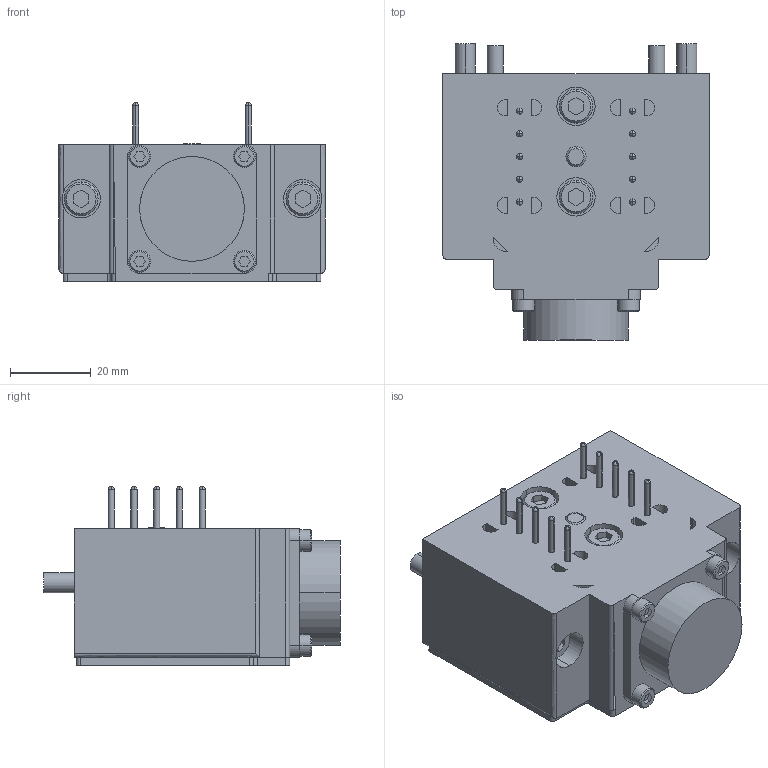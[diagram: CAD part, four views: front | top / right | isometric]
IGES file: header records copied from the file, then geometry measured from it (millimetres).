
Start section: 3D InterOp IGES (v. 2022 1.0.0), Spatial Corp. Copyright (c) 1999-2020.
Global section: file name: KHB-45~300HS-D1010C_ver1.igs; native system: Spatial Corp.; preprocessor: 3D InterOp GENERIC/IGES 3.0; author: Noname; organization: Noname; date: 20260427.165744; units: millimetre
Bounding box: 66 x 73.5 x 44.4 mm (x, y, z)
Surface area: 22965.3 mm2 (no closed solid volume)
Topology: 0 solids, 0 shells, 553 faces, 2624 edges, 2584 vertices
Faces by surface type: extrusion 304, revolution 249
